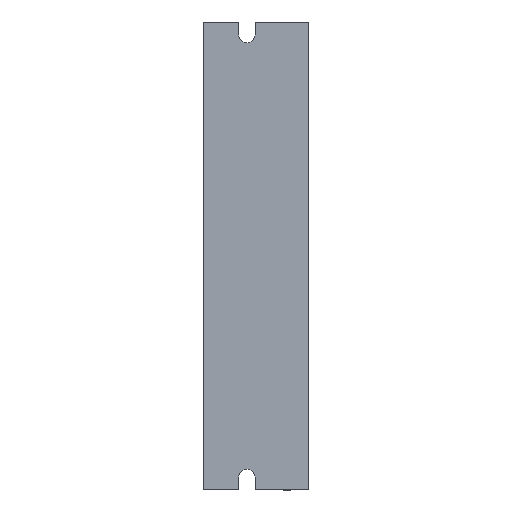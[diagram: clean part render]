
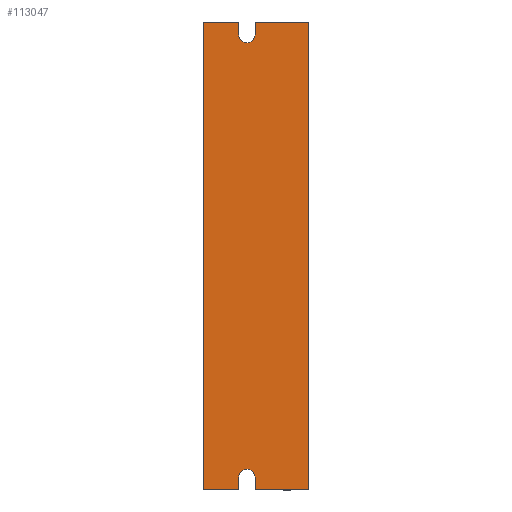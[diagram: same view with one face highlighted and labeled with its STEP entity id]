
A CAD part, left-side view. The second image highlights one B-rep face of the part: STEP entity #113047.
In plain terms, the highlighted planar face has unit normal (-1, 0, 0).
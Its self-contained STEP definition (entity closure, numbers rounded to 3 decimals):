
#1309 = CARTESIAN_POINT ( 'NONE',  ( 0., 14.75, -64.5 ) ) ;
#1514 = EDGE_CURVE ( 'NONE', #76408, #61373, #19503, .T. ) ;
#2188 = EDGE_CURVE ( 'NONE', #94001, #37593, #55027, .T. ) ;
#2797 = LINE ( 'NONE', #97978, #93438 ) ;
#5013 = AXIS2_PLACEMENT_3D ( 'NONE', #79485, #26835, #88218 ) ;
#5115 = DIRECTION ( 'NONE',  ( 0., -1., 0. ) ) ;
#5501 = DIRECTION ( 'NONE',  ( 1., 0., 0. ) ) ;
#5937 = LINE ( 'NONE', #57761, #52686 ) ;
#7608 = CARTESIAN_POINT ( 'NONE',  ( 0., 0., 64.5 ) ) ;
#7776 = VECTOR ( 'NONE', #34053, 1000. ) ;
#9819 = CARTESIAN_POINT ( 'NONE',  ( 0., 29., 64.5 ) ) ;
#12358 = CIRCLE ( 'NONE', #5013, 2.25 ) ;
#14497 = ORIENTED_EDGE ( 'NONE', *, *, #65356, .F. ) ;
#15693 = EDGE_CURVE ( 'NONE', #62979, #37593, #72220, .T. ) ;
#16601 = FACE_OUTER_BOUND ( 'NONE', #70449, .T. ) ;
#16640 = CARTESIAN_POINT ( 'NONE',  ( 0., 19.25, -64.5 ) ) ;
#17376 = EDGE_CURVE ( 'NONE', #104423, #76408, #5937, .T. ) ;
#19503 = LINE ( 'NONE', #22784, #39969 ) ;
#19980 = CARTESIAN_POINT ( 'NONE',  ( 0., 14.75, 64.5 ) ) ;
#20984 = ORIENTED_EDGE ( 'NONE', *, *, #78270, .T. ) ;
#21319 = DIRECTION ( 'NONE',  ( 0., 0., 1. ) ) ;
#22784 = CARTESIAN_POINT ( 'NONE',  ( 0., 19.25, 64.5 ) ) ;
#23114 = VERTEX_POINT ( 'NONE', #47904 ) ;
#23268 = DIRECTION ( 'NONE',  ( 1., 0., 0. ) ) ;
#23979 = VERTEX_POINT ( 'NONE', #9819 ) ;
#25029 = CARTESIAN_POINT ( 'NONE',  ( 0., 14.75, 64.5 ) ) ;
#26835 = DIRECTION ( 'NONE',  ( 1., 0., 0. ) ) ;
#27804 = EDGE_CURVE ( 'NONE', #23979, #104423, #2797, .T. ) ;
#31223 = CARTESIAN_POINT ( 'NONE',  ( 0., 0., 64.5 ) ) ;
#31280 = DIRECTION ( 'NONE',  ( 0., 0., 1. ) ) ;
#31910 = DIRECTION ( 'NONE',  ( 0., 0., -1. ) ) ;
#33839 = LINE ( 'NONE', #7608, #7776 ) ;
#34053 = DIRECTION ( 'NONE',  ( 0., -1., 0. ) ) ;
#34312 = VECTOR ( 'NONE', #67104, 1000. ) ;
#34834 = VERTEX_POINT ( 'NONE', #19980 ) ;
#34876 = CARTESIAN_POINT ( 'NONE',  ( 0., 19.25, 61. ) ) ;
#37411 = ORIENTED_EDGE ( 'NONE', *, *, #96608, .F. ) ;
#37593 = VERTEX_POINT ( 'NONE', #79711 ) ;
#39969 = VECTOR ( 'NONE', #21319, 1000. ) ;
#40987 = ORIENTED_EDGE ( 'NONE', *, *, #2188, .T. ) ;
#41887 = CARTESIAN_POINT ( 'NONE',  ( 0., 0., 64.5 ) ) ;
#44304 = CARTESIAN_POINT ( 'NONE',  ( 0., 14.75, -61. ) ) ;
#45284 = EDGE_CURVE ( 'NONE', #69917, #94001, #86178, .T. ) ;
#47904 = CARTESIAN_POINT ( 'NONE',  ( 0., 19.25, 64.5 ) ) ;
#48385 = VERTEX_POINT ( 'NONE', #84922 ) ;
#52686 = VECTOR ( 'NONE', #5115, 1000. ) ;
#55027 = LINE ( 'NONE', #63821, #34312 ) ;
#55301 = LINE ( 'NONE', #65911, #99201 ) ;
#57059 = VECTOR ( 'NONE', #67352, 1000. ) ;
#57761 = CARTESIAN_POINT ( 'NONE',  ( 0., 0., -64.5 ) ) ;
#58389 = AXIS2_PLACEMENT_3D ( 'NONE', #75943, #23268, #84790 ) ;
#58575 = CIRCLE ( 'NONE', #58389, 2.25 ) ;
#61373 = VERTEX_POINT ( 'NONE', #106049 ) ;
#61741 = VECTOR ( 'NONE', #31280, 1000. ) ;
#62845 = VECTOR ( 'NONE', #77728, 1000. ) ;
#62979 = VERTEX_POINT ( 'NONE', #82120 ) ;
#63821 = CARTESIAN_POINT ( 'NONE',  ( 0., 0., -64.5 ) ) ;
#64464 = ORIENTED_EDGE ( 'NONE', *, *, #27804, .T. ) ;
#65356 = EDGE_CURVE ( 'NONE', #34834, #62979, #33839, .T. ) ;
#65911 = CARTESIAN_POINT ( 'NONE',  ( 0., 14.75, 64.5 ) ) ;
#66972 = DIRECTION ( 'NONE',  ( 0., 0., -1. ) ) ;
#67104 = DIRECTION ( 'NONE',  ( 0., -1., 0. ) ) ;
#67313 = EDGE_CURVE ( 'NONE', #95585, #23114, #82406, .T. ) ;
#67352 = DIRECTION ( 'NONE',  ( 0., -1., 0. ) ) ;
#69917 = VERTEX_POINT ( 'NONE', #44304 ) ;
#70449 = EDGE_LOOP ( 'NONE', ( #109760, #89064, #40987, #102245, #14497, #111234, #20984, #112092, #37411, #64464, #99134, #92546 ) ) ;
#70836 = EDGE_CURVE ( 'NONE', #34834, #48385, #55301, .T. ) ;
#72220 = LINE ( 'NONE', #75767, #95535 ) ;
#74011 = AXIS2_PLACEMENT_3D ( 'NONE', #31223, #5501, #66972 ) ;
#74745 = DIRECTION ( 'NONE',  ( 0., 0., -1. ) ) ;
#75436 = PLANE ( 'NONE',  #74011 ) ;
#75767 = CARTESIAN_POINT ( 'NONE',  ( 0., 0., 64.5 ) ) ;
#75943 = CARTESIAN_POINT ( 'NONE',  ( 0., 17., -61. ) ) ;
#76408 = VERTEX_POINT ( 'NONE', #16640 ) ;
#77728 = DIRECTION ( 'NONE',  ( 0., 0., -1. ) ) ;
#78270 = EDGE_CURVE ( 'NONE', #48385, #95585, #12358, .T. ) ;
#79227 = LINE ( 'NONE', #41887, #57059 ) ;
#79485 = CARTESIAN_POINT ( 'NONE',  ( 0., 17., 61. ) ) ;
#79711 = CARTESIAN_POINT ( 'NONE',  ( 0., 0., -64.5 ) ) ;
#82120 = CARTESIAN_POINT ( 'NONE',  ( 0., 0., 64.5 ) ) ;
#82384 = CARTESIAN_POINT ( 'NONE',  ( 0., 29., -64.5 ) ) ;
#82406 = LINE ( 'NONE', #83958, #61741 ) ;
#83958 = CARTESIAN_POINT ( 'NONE',  ( 0., 19.25, 64.5 ) ) ;
#84790 = DIRECTION ( 'NONE',  ( 0., 0., -1. ) ) ;
#84922 = CARTESIAN_POINT ( 'NONE',  ( 0., 14.75, 61. ) ) ;
#86178 = LINE ( 'NONE', #25029, #62845 ) ;
#88218 = DIRECTION ( 'NONE',  ( 0., 0., -1. ) ) ;
#89064 = ORIENTED_EDGE ( 'NONE', *, *, #45284, .T. ) ;
#92546 = ORIENTED_EDGE ( 'NONE', *, *, #1514, .T. ) ;
#93438 = VECTOR ( 'NONE', #98371, 1000. ) ;
#94001 = VERTEX_POINT ( 'NONE', #1309 ) ;
#95535 = VECTOR ( 'NONE', #31910, 1000. ) ;
#95585 = VERTEX_POINT ( 'NONE', #34876 ) ;
#95960 = EDGE_CURVE ( 'NONE', #61373, #69917, #58575, .T. ) ;
#96608 = EDGE_CURVE ( 'NONE', #23979, #23114, #79227, .T. ) ;
#97978 = CARTESIAN_POINT ( 'NONE',  ( 0., 29., 64.5 ) ) ;
#98371 = DIRECTION ( 'NONE',  ( 0., 0., -1. ) ) ;
#99134 = ORIENTED_EDGE ( 'NONE', *, *, #17376, .T. ) ;
#99201 = VECTOR ( 'NONE', #74745, 1000. ) ;
#102245 = ORIENTED_EDGE ( 'NONE', *, *, #15693, .F. ) ;
#104423 = VERTEX_POINT ( 'NONE', #82384 ) ;
#106049 = CARTESIAN_POINT ( 'NONE',  ( 0., 19.25, -61. ) ) ;
#109760 = ORIENTED_EDGE ( 'NONE', *, *, #95960, .T. ) ;
#111234 = ORIENTED_EDGE ( 'NONE', *, *, #70836, .T. ) ;
#112092 = ORIENTED_EDGE ( 'NONE', *, *, #67313, .T. ) ;
#113047 = ADVANCED_FACE ( 'NONE', ( #16601 ), #75436, .F. ) ;
